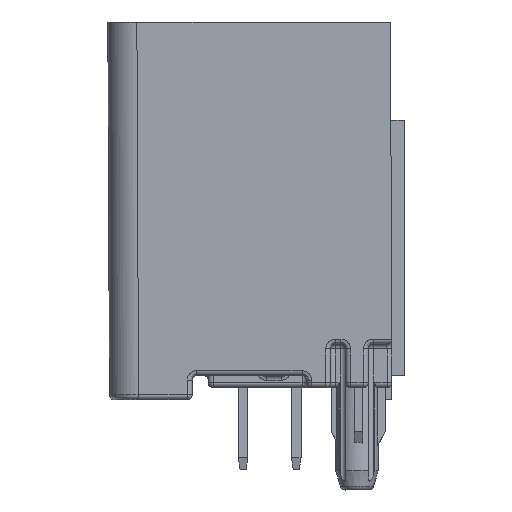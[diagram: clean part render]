
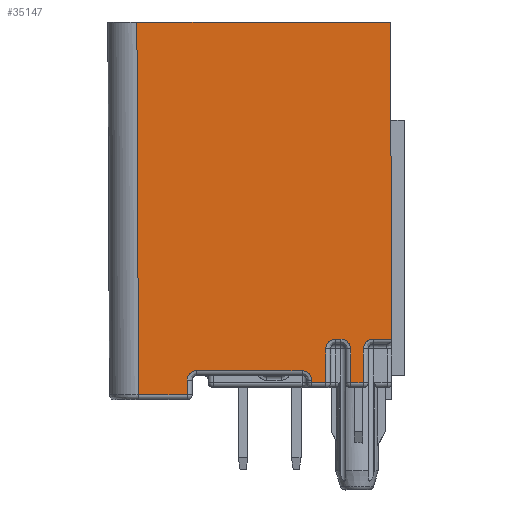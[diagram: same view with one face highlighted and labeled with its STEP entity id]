
A CAD part, left-side view. The second image highlights one B-rep face of the part: STEP entity #35147.
In plain terms, the highlighted planar face has unit normal (-1, 0, -0.004).
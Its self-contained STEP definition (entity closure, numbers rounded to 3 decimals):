
#7049=DIRECTION('',(0.004,0.,-1.));
#7050=VECTOR('',#7049,0.6);
#7051=CARTESIAN_POINT('',(-15.25,2.837,
-5.148));
#7052=LINE('',#7051,#7050);
#7072=DIRECTION('',(0.,1.,0.));
#7073=VECTOR('',#7072,2.015);
#7074=CARTESIAN_POINT('',(-15.248,2.837,
-5.748));
#7075=LINE('',#7074,#7073);
#8988=DIRECTION('',(0.,1.,0.));
#8989=VECTOR('',#8988,4.338);
#8990=CARTESIAN_POINT('',(-15.252,-1.9,
-4.748));
#8991=LINE('',#8990,#8989);
#8996=CARTESIAN_POINT('',(-15.256,-4.434,
-3.848));
#8997=CARTESIAN_POINT('',(-15.256,-4.434,
-3.804));
#8998=CARTESIAN_POINT('',(-15.257,-4.447,
-3.722));
#8999=CARTESIAN_POINT('',(-15.257,-4.505,
-3.608));
#9000=CARTESIAN_POINT('',(-15.258,-4.594,
-3.519));
#9001=CARTESIAN_POINT('',(-15.258,-4.708,
-3.461));
#9002=CARTESIAN_POINT('',(-15.258,-4.79,
-3.448));
#9003=CARTESIAN_POINT('',(-15.258,-4.834,
-3.448));
#9005=CARTESIAN_POINT('',(-15.258,-3.504,
-3.448));
#9006=CARTESIAN_POINT('',(-15.258,-3.547,
-3.448));
#9007=CARTESIAN_POINT('',(-15.258,-3.629,
-3.461));
#9008=CARTESIAN_POINT('',(-15.258,-3.743,
-3.519));
#9009=CARTESIAN_POINT('',(-15.257,-3.832,
-3.608));
#9010=CARTESIAN_POINT('',(-15.257,-3.89,
-3.722));
#9011=CARTESIAN_POINT('',(-15.256,-3.903,
-3.804));
#9012=CARTESIAN_POINT('',(-15.256,-3.904,
-3.848));
#9014=CARTESIAN_POINT('',(-15.256,-2.88,
-3.848));
#9015=CARTESIAN_POINT('',(-15.256,-2.88,
-3.804));
#9016=CARTESIAN_POINT('',(-15.257,-2.893,
-3.722));
#9017=CARTESIAN_POINT('',(-15.257,-2.951,
-3.608));
#9018=CARTESIAN_POINT('',(-15.258,-3.041,
-3.519));
#9019=CARTESIAN_POINT('',(-15.258,-3.154,
-3.461));
#9020=CARTESIAN_POINT('',(-15.258,-3.237,
-3.448));
#9021=CARTESIAN_POINT('',(-15.258,-3.28,
-3.448));
#9023=CARTESIAN_POINT('',(-15.252,-1.9,
-4.748));
#9024=CARTESIAN_POINT('',(-15.252,-1.943,
-4.748));
#9025=CARTESIAN_POINT('',(-15.252,-2.026,
-4.761));
#9026=CARTESIAN_POINT('',(-15.252,-2.139,
-4.819));
#9027=CARTESIAN_POINT('',(-15.251,-2.229,
-4.908));
#9028=CARTESIAN_POINT('',(-15.251,-2.287,
-5.022));
#9029=CARTESIAN_POINT('',(-15.251,-2.3,
-5.104));
#9030=CARTESIAN_POINT('',(-15.25,-2.3,
-5.148));
#9032=CARTESIAN_POINT('',(-15.25,2.837,
-5.148));
#9033=CARTESIAN_POINT('',(-15.251,2.837,
-5.104));
#9034=CARTESIAN_POINT('',(-15.251,2.824,
-5.022));
#9035=CARTESIAN_POINT('',(-15.251,2.766,
-4.908));
#9036=CARTESIAN_POINT('',(-15.252,2.677,
-4.819));
#9037=CARTESIAN_POINT('',(-15.252,2.563,
-4.761));
#9038=CARTESIAN_POINT('',(-15.252,2.481,
-4.748));
#9039=CARTESIAN_POINT('',(-15.252,2.437,
-4.748));
#9041=DIRECTION('',(0.004,-0.004,-1.));
#9042=VECTOR('',#9041,15.401);
#9043=CARTESIAN_POINT('',(-15.315,4.92,9.653));
#9044=LINE('',#9043,#9042);
#9045=DIRECTION('',(0.,1.,0.));
#9046=VECTOR('',#9045,10.472);
#9047=CARTESIAN_POINT('',(-15.315,-5.552,9.653));
#9048=LINE('',#9047,#9046);
#9059=DIRECTION('',(0.004,0.,-1.));
#9060=VECTOR('',#9059,1.4);
#9061=CARTESIAN_POINT('',(-15.256,-4.434,
-3.848));
#9062=LINE('',#9061,#9060);
#9082=DIRECTION('',(0.,1.,0.));
#9083=VECTOR('',#9082,0.53);
#9084=CARTESIAN_POINT('',(-15.25,-4.434,
-5.248));
#9085=LINE('',#9084,#9083);
#9105=DIRECTION('',(-0.004,0.,1.));
#9106=VECTOR('',#9105,1.4);
#9107=CARTESIAN_POINT('',(-15.25,-3.904,
-5.248));
#9108=LINE('',#9107,#9106);
#9123=DIRECTION('',(0.,1.,0.));
#9124=VECTOR('',#9123,0.224);
#9125=CARTESIAN_POINT('',(-15.258,-3.504,
-3.448));
#9126=LINE('',#9125,#9124);
#9141=DIRECTION('',(0.004,0.,-1.));
#9142=VECTOR('',#9141,1.4);
#9143=CARTESIAN_POINT('',(-15.256,-2.88,
-3.848));
#9144=LINE('',#9143,#9142);
#9164=DIRECTION('',(0.,1.,0.));
#9165=VECTOR('',#9164,0.58);
#9166=CARTESIAN_POINT('',(-15.25,-2.88,
-5.248));
#9167=LINE('',#9166,#9165);
#9187=DIRECTION('',(-0.004,0.,1.));
#9188=VECTOR('',#9187,0.1);
#9189=CARTESIAN_POINT('',(-15.25,-2.3,
-5.248));
#9190=LINE('',#9189,#9188);
#9828=DIRECTION('',(0.,1.,-0.001));
#9829=VECTOR('',#9828,0.775);
#9830=CARTESIAN_POINT('',(-15.258,-5.609,
-3.447));
#9831=LINE('',#9830,#9829);
#9854=DIRECTION('',(0.004,-0.004,-1.));
#9855=VECTOR('',#9854,13.1);
#9856=CARTESIAN_POINT('',(-15.315,-5.552,9.653));
#9857=LINE('',#9856,#9855);
#18707=CARTESIAN_POINT('',(-15.315,-5.552,9.653));
#18708=VERTEX_POINT('',#18707);
#18709=CARTESIAN_POINT('',(-15.258,-5.609,
-3.447));
#18710=VERTEX_POINT('',#18709);
#18775=VERTEX_POINT('',#8996);
#18776=VERTEX_POINT('',#9003);
#18777=CARTESIAN_POINT('',(-15.315,4.92,9.653));
#18778=VERTEX_POINT('',#18777);
#18779=CARTESIAN_POINT('',(-15.248,4.853,
-5.748));
#18780=VERTEX_POINT('',#18779);
#18781=CARTESIAN_POINT('',(-15.248,2.837,
-5.748));
#18782=VERTEX_POINT('',#18781);
#18783=CARTESIAN_POINT('',(-15.25,2.837,
-5.148));
#18784=VERTEX_POINT('',#18783);
#18785=VERTEX_POINT('',#9039);
#18786=CARTESIAN_POINT('',(-15.252,-1.9,
-4.748));
#18787=VERTEX_POINT('',#18786);
#18788=VERTEX_POINT('',#9030);
#18789=CARTESIAN_POINT('',(-15.25,-2.3,
-5.248));
#18790=VERTEX_POINT('',#18789);
#18791=CARTESIAN_POINT('',(-15.25,-2.88,
-5.248));
#18792=VERTEX_POINT('',#18791);
#18793=CARTESIAN_POINT('',(-15.256,-2.88,
-3.848));
#18794=VERTEX_POINT('',#18793);
#18795=VERTEX_POINT('',#9021);
#18796=CARTESIAN_POINT('',(-15.258,-3.504,
-3.448));
#18797=VERTEX_POINT('',#18796);
#18798=VERTEX_POINT('',#9012);
#18799=CARTESIAN_POINT('',(-15.25,-3.904,
-5.248));
#18800=VERTEX_POINT('',#18799);
#18801=CARTESIAN_POINT('',(-15.25,-4.434,
-5.248));
#18802=VERTEX_POINT('',#18801);
#35108=CARTESIAN_POINT('',(-15.315,6.12,9.653));
#35109=DIRECTION('',(1.,0.,0.004));
#35110=DIRECTION('',(0.004,0.,-1.));
#35111=AXIS2_PLACEMENT_3D('',#35108,#35109,#35110);
#35112=PLANE('',#35111);
#35114=ORIENTED_EDGE('',*,*,#35113,.F.);
#35116=ORIENTED_EDGE('',*,*,#35115,.T.);
#35118=ORIENTED_EDGE('',*,*,#35117,.T.);
#35120=ORIENTED_EDGE('',*,*,#35119,.T.);
#35122=ORIENTED_EDGE('',*,*,#35121,.F.);
#35124=ORIENTED_EDGE('',*,*,#35123,.T.);
#35126=ORIENTED_EDGE('',*,*,#35125,.F.);
#35128=ORIENTED_EDGE('',*,*,#35127,.T.);
#35130=ORIENTED_EDGE('',*,*,#35129,.T.);
#35132=ORIENTED_EDGE('',*,*,#35131,.T.);
#35133=ORIENTED_EDGE('',*,*,#35087,.F.);
#35134=ORIENTED_EDGE('',*,*,#35101,.T.);
#35135=ORIENTED_EDGE('',*,*,#32108,.F.);
#35136=ORIENTED_EDGE('',*,*,#32123,.T.);
#35137=ORIENTED_EDGE('',*,*,#32149,.T.);
#35139=ORIENTED_EDGE('',*,*,#35138,.F.);
#35140=ORIENTED_EDGE('',*,*,#25685,.F.);
#35142=ORIENTED_EDGE('',*,*,#35141,.T.);
#35144=ORIENTED_EDGE('',*,*,#35143,.T.);
#35145=EDGE_LOOP('',(#35114,#35116,#35118,#35120,#35122,#35124,#35126,#35128,
#35130,#35132,#35133,#35134,#35135,#35136,#35137,#35139,#35140,#35142,#35144));
#35146=FACE_OUTER_BOUND('',#35145,.F.);
#35147=ADVANCED_FACE('',(#35146),#35112,.F.);
#9004=B_SPLINE_CURVE_WITH_KNOTS('',3,(#8996,#8997,#8998,#8999,#9000,#9001,#9002,
#9003),.UNSPECIFIED.,.F.,.F.,(4,1,1,1,1,4),(0.,0.2,0.4,0.6,0.8,1.),
.UNSPECIFIED.);
#9013=B_SPLINE_CURVE_WITH_KNOTS('',3,(#9005,#9006,#9007,#9008,#9009,#9010,#9011,
#9012),.UNSPECIFIED.,.F.,.F.,(4,1,1,1,1,4),(0.,0.2,0.4,0.6,0.8,1.),
.UNSPECIFIED.);
#9022=B_SPLINE_CURVE_WITH_KNOTS('',3,(#9014,#9015,#9016,#9017,#9018,#9019,#9020,
#9021),.UNSPECIFIED.,.F.,.F.,(4,1,1,1,1,4),(0.,0.2,0.4,0.6,0.8,1.),
.UNSPECIFIED.);
#9031=B_SPLINE_CURVE_WITH_KNOTS('',3,(#9023,#9024,#9025,#9026,#9027,#9028,#9029,
#9030),.UNSPECIFIED.,.F.,.F.,(4,1,1,1,1,4),(0.,0.2,0.4,0.6,0.8,1.),
.UNSPECIFIED.);
#9040=B_SPLINE_CURVE_WITH_KNOTS('',3,(#9032,#9033,#9034,#9035,#9036,#9037,#9038,
#9039),.UNSPECIFIED.,.F.,.F.,(4,1,1,1,1,4),(0.,0.2,0.4,0.6,0.8,1.),
.UNSPECIFIED.);
#25685=EDGE_CURVE('',#18708,#18778,#9048,.T.);
#32108=EDGE_CURVE('',#18784,#18785,#9040,.T.);
#32123=EDGE_CURVE('',#18784,#18782,#7052,.T.);
#32149=EDGE_CURVE('',#18782,#18780,#7075,.T.);
#35087=EDGE_CURVE('',#18787,#18788,#9031,.T.);
#35101=EDGE_CURVE('',#18787,#18785,#8991,.T.);
#35113=EDGE_CURVE('',#18775,#18776,#9004,.T.);
#35115=EDGE_CURVE('',#18775,#18802,#9062,.T.);
#35117=EDGE_CURVE('',#18802,#18800,#9085,.T.);
#35119=EDGE_CURVE('',#18800,#18798,#9108,.T.);
#35121=EDGE_CURVE('',#18797,#18798,#9013,.T.);
#35123=EDGE_CURVE('',#18797,#18795,#9126,.T.);
#35125=EDGE_CURVE('',#18794,#18795,#9022,.T.);
#35127=EDGE_CURVE('',#18794,#18792,#9144,.T.);
#35129=EDGE_CURVE('',#18792,#18790,#9167,.T.);
#35131=EDGE_CURVE('',#18790,#18788,#9190,.T.);
#35138=EDGE_CURVE('',#18778,#18780,#9044,.T.);
#35141=EDGE_CURVE('',#18708,#18710,#9857,.T.);
#35143=EDGE_CURVE('',#18710,#18776,#9831,.T.);
